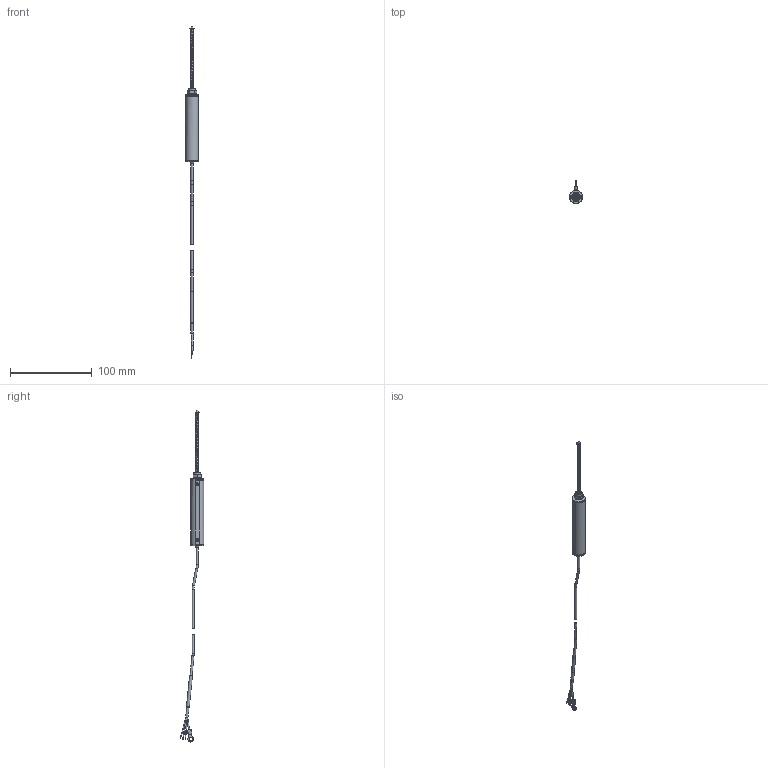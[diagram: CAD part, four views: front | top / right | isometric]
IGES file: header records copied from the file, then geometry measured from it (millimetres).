
Global section: file name: LPPS-MSL-050; native system: Autodesk Inventor 2020; preprocessor: unknown; author: J. Nielson; date: 20190829.152316; units: millimetre
Bounding box: 15.1 x 28.77 x 405.79 mm (x, y, z)
Volume: 7210.9 mm3; surface area: 14250.6 mm2
Topology: 24 solids, 24 shells, 341 faces, 863 edges, 583 vertices
Faces by surface type: bspline 341
